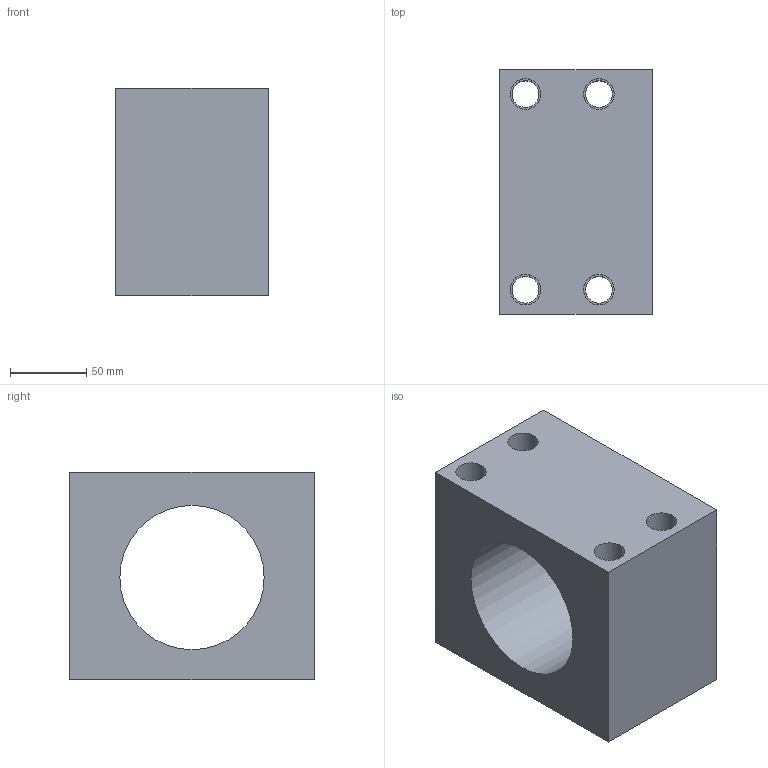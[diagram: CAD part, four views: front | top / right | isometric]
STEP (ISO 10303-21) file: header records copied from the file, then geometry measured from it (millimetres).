
FILE_DESCRIPTION(/* description */ (''),/* implementation_level */ '2;1');
FILE_NAME(/* name */ 'NH50D.stp',/* time_stamp */ '2017-08-19T09:49:58+08:00',/* author */ (''),/* organization */ (''),/* preprocessor_version */ 'ST-DEVELOPER v15',/* originating_system */ 'SIEMENS PLM Software NX 9.0',/* authorisation */ '');
FILE_SCHEMA (('CONFIG_CONTROL_DESIGN'));
Length unit declared in the file: millimetre
Products named in the file (1): NH50D
Bounding box: 100 x 160 x 136 mm (x, y, z)
Volume: 1303130.8 mm3; surface area: 152746.1 mm2
Topology: 1 solids, 1 shells, 39 faces, 91 edges, 62 vertices
Faces by surface type: cylinder 19, plane 14, cone 6
Full cylindrical faces by diameter (mm): 8 x6, 17.5 x4, 20 x4, 28 x4, 94.4 x1
Entity records: 994 total; most frequent: DIRECTION 168, CARTESIAN_POINT 142, ORIENTED_EDGE 100, FACE_BOUND 86, EDGE_LOOP 82, AXIS2_PLACEMENT_3D 78, VERTEX_POINT 52, EDGE_CURVE 50
